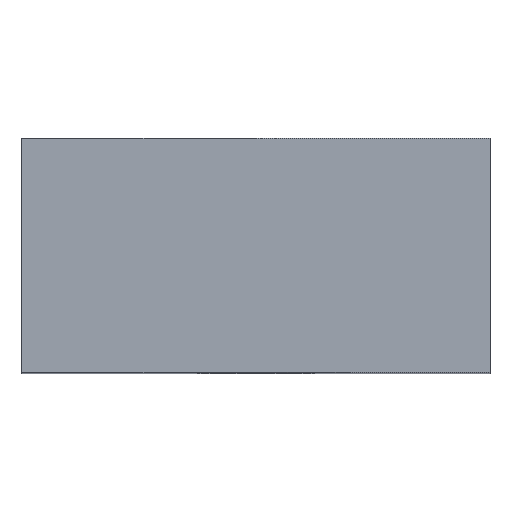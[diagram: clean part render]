
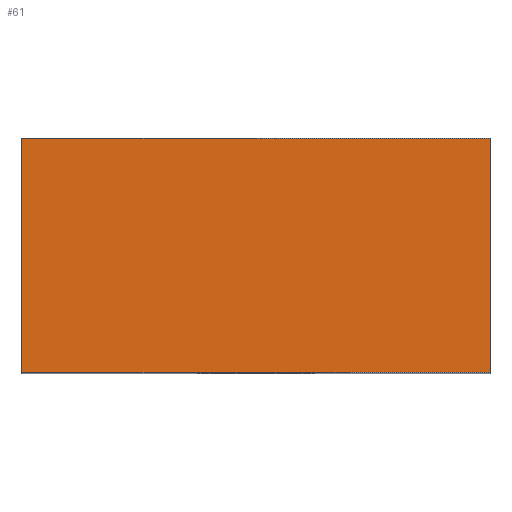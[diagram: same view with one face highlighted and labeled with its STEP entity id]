
A CAD part, top view. The second image highlights one B-rep face of the part: STEP entity #61.
In plain terms, the highlighted planar face has unit normal (0, 0, 1).
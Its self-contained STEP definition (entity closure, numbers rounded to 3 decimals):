
#52=FACE_OUTER_BOUND('',#163,.T.);
#61=ADVANCED_FACE('',(#52),#80,.T.);
#80=PLANE('',#348);
#90=LINE('',#478,#112);
#95=LINE('',#491,#117);
#96=LINE('',#494,#118);
#97=LINE('',#495,#119);
#112=VECTOR('',#385,1.);
#117=VECTOR('',#396,1.);
#118=VECTOR('',#397,1.);
#119=VECTOR('',#398,1.);
#163=EDGE_LOOP('',(#203,#204,#205,#206));
#203=ORIENTED_EDGE('',*,*,#303,.F.);
#204=ORIENTED_EDGE('',*,*,#304,.F.);
#205=ORIENTED_EDGE('',*,*,#297,.F.);
#206=ORIENTED_EDGE('',*,*,#305,.F.);
#267=VERTEX_POINT('',#473);
#269=VERTEX_POINT('',#477);
#275=VERTEX_POINT('',#492);
#276=VERTEX_POINT('',#493);
#297=EDGE_CURVE('',#269,#267,#90,.T.);
#303=EDGE_CURVE('',#275,#276,#95,.T.);
#304=EDGE_CURVE('',#267,#275,#96,.T.);
#305=EDGE_CURVE('',#276,#269,#97,.T.);
#348=AXIS2_PLACEMENT_3D('',#496,#399,#400);
#385=DIRECTION('',(1.,0.,0.));
#396=DIRECTION('',(-1.,0.,0.));
#397=DIRECTION('',(0.,-1.,0.));
#398=DIRECTION('',(0.,1.,0.));
#399=DIRECTION('',(0.,0.,1.));
#400=DIRECTION('',(1.,0.,0.));
#473=CARTESIAN_POINT('',(10.,5.,24.));
#477=CARTESIAN_POINT('',(0.,5.,24.));
#478=CARTESIAN_POINT('',(5.,5.,24.));
#491=CARTESIAN_POINT('',(5.,0.,24.));
#492=CARTESIAN_POINT('',(10.,0.,24.));
#493=CARTESIAN_POINT('',(0.,0.,24.));
#494=CARTESIAN_POINT('',(10.,2.5,24.));
#495=CARTESIAN_POINT('',(0.,2.5,24.));
#496=CARTESIAN_POINT('',(5.,2.5,24.));
